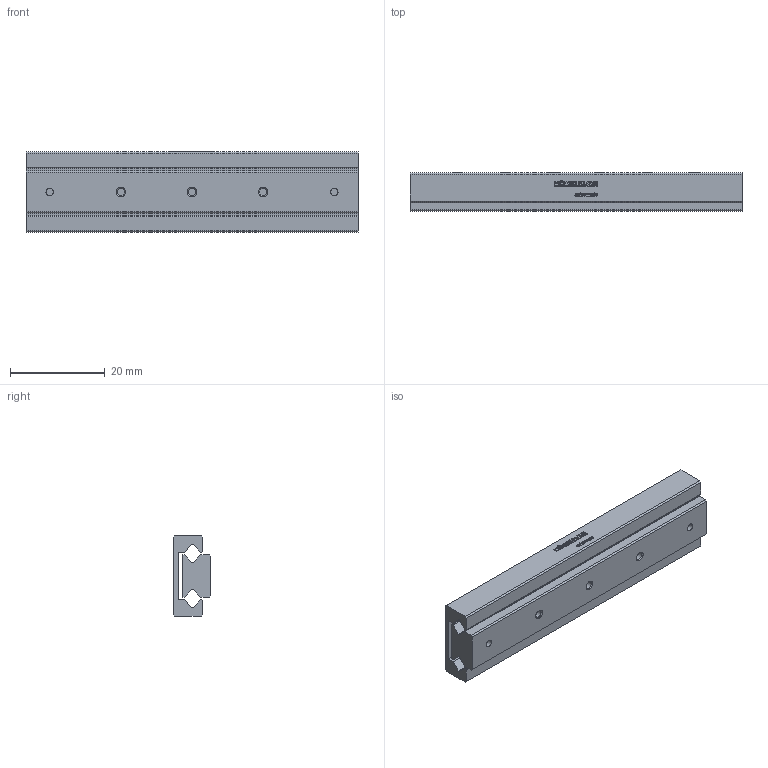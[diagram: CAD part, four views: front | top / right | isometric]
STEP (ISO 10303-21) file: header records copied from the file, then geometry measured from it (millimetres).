
FILE_DESCRIPTION(/* description */ ('STEP AP214'),/* implementation_level */ '2;1');
FILE_NAME(/* name */ 'MSR 7-70.60(0)',/* time_stamp */ '2025-04-16T17:21:31+02:00',/* author */ ('License CC BY-ND 4.0'),/* organization */ ('CADENAS'),/* preprocessor_version */ 'ST-DEVELOPER v19.3',/* originating_system */ 'PARTsolutions',/* authorisation */ ' ');
FILE_SCHEMA (('AUTOMOTIVE_DESIGN {1 0 10303 214 3 1 1}'));
Length unit declared in the file: millimetre
Products named in the file (3): MSR 7-70.60(0); MSR 7-70.60_1; MSR 7-70.60_2
Assembly tree (2 placements, depth 2):
  MSR 7-70.60(0)
    MSR 7-70.60_1
    MSR 7-70.60_2
Bounding box: 70 x 8 x 17 mm (x, y, z)
Volume: 6544.7 mm3; surface area: 6892.3 mm2
Topology: 2 solids, 2 shells, 556 faces, 1551 edges, 1028 vertices
Faces by surface type: cylinder 315, plane 223, cone 18
Full cylindrical faces by diameter (mm): 1.567 x17, 4.25 x2
Entity records: 17941 total; most frequent: DIRECTION 3280, CARTESIAN_POINT 3077, ORIENTED_EDGE 3004, EDGE_CURVE 1502, AXIS2_PLACEMENT_3D 1219, VERTEX_POINT 1016, LINE 842, VECTOR 842
